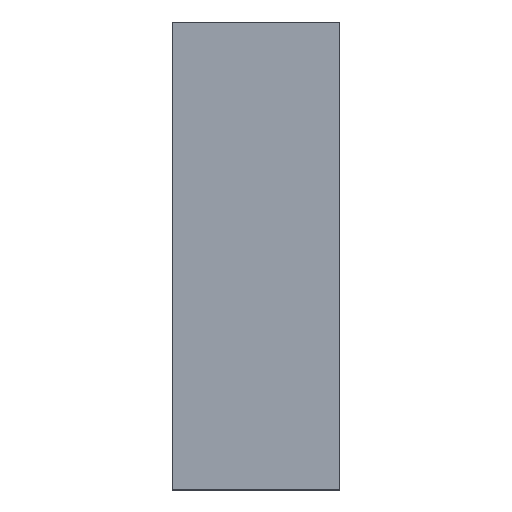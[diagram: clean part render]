
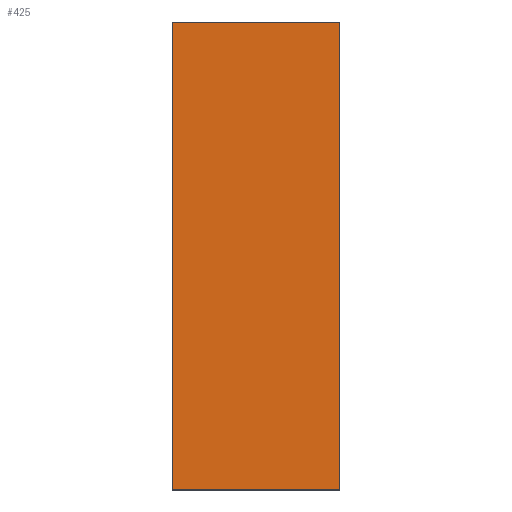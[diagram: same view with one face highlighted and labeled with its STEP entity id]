
A CAD part, top view. The second image highlights one B-rep face of the part: STEP entity #425.
In plain terms, the highlighted planar face has unit normal (0, 0, 1).
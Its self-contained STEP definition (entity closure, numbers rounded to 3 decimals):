
#24 = VERTEX_POINT('',#25);
#25 = CARTESIAN_POINT('',(13.5,-44.5,0.1));
#32 = PLANE('',#33);
#33 = AXIS2_PLACEMENT_3D('',#34,#35,#36);
#34 = CARTESIAN_POINT('',(13.5,-44.5,-2.1));
#35 = DIRECTION('',(1.,0.,-0.));
#36 = DIRECTION('',(0.,0.,1.));
#44 = PLANE('',#45);
#45 = AXIS2_PLACEMENT_3D('',#46,#47,#48);
#46 = CARTESIAN_POINT('',(13.5,-44.5,-2.1));
#47 = DIRECTION('',(-0.,1.,0.));
#48 = DIRECTION('',(0.,0.,1.));
#85 = VERTEX_POINT('',#86);
#86 = CARTESIAN_POINT('',(13.5,-23.5,0.1));
#100 = PLANE('',#101);
#101 = AXIS2_PLACEMENT_3D('',#102,#103,#104);
#102 = CARTESIAN_POINT('',(13.5,-23.5,-2.1));
#103 = DIRECTION('',(-0.,1.,0.));
#104 = DIRECTION('',(0.,0.,1.));
#112 = EDGE_CURVE('',#24,#85,#113,.T.);
#113 = SURFACE_CURVE('',#114,(#118,#125),.PCURVE_S1.);
#114 = LINE('',#115,#116);
#115 = CARTESIAN_POINT('',(13.5,-44.5,0.1));
#116 = VECTOR('',#117,1.);
#117 = DIRECTION('',(-0.,1.,0.));
#118 = PCURVE('',#32,#119);
#119 = DEFINITIONAL_REPRESENTATION('',(#120),#124);
#120 = LINE('',#121,#122);
#121 = CARTESIAN_POINT('',(2.2,0.));
#122 = VECTOR('',#123,1.);
#123 = DIRECTION('',(0.,-1.));
#124 = ( GEOMETRIC_REPRESENTATION_CONTEXT(2) 
PARAMETRIC_REPRESENTATION_CONTEXT() REPRESENTATION_CONTEXT('2D SPACE',''
  ) );
#125 = PCURVE('',#126,#131);
#126 = PLANE('',#127);
#127 = AXIS2_PLACEMENT_3D('',#128,#129,#130);
#128 = CARTESIAN_POINT('',(13.5,-44.5,0.1));
#129 = DIRECTION('',(0.,0.,1.));
#130 = DIRECTION('',(1.,0.,-0.));
#131 = DEFINITIONAL_REPRESENTATION('',(#132),#136);
#132 = LINE('',#133,#134);
#133 = CARTESIAN_POINT('',(0.,0.));
#134 = VECTOR('',#135,1.);
#135 = DIRECTION('',(0.,1.));
#136 = ( GEOMETRIC_REPRESENTATION_CONTEXT(2) 
PARAMETRIC_REPRESENTATION_CONTEXT() REPRESENTATION_CONTEXT('2D SPACE',''
  ) );
#165 = EDGE_CURVE('',#24,#166,#168,.T.);
#166 = VERTEX_POINT('',#167);
#167 = CARTESIAN_POINT('',(21.,-44.5,0.1));
#168 = SURFACE_CURVE('',#169,(#173,#180),.PCURVE_S1.);
#169 = LINE('',#170,#171);
#170 = CARTESIAN_POINT('',(13.5,-44.5,0.1));
#171 = VECTOR('',#172,1.);
#172 = DIRECTION('',(1.,0.,-0.));
#173 = PCURVE('',#44,#174);
#174 = DEFINITIONAL_REPRESENTATION('',(#175),#179);
#175 = LINE('',#176,#177);
#176 = CARTESIAN_POINT('',(2.2,0.));
#177 = VECTOR('',#178,1.);
#178 = DIRECTION('',(0.,1.));
#179 = ( GEOMETRIC_REPRESENTATION_CONTEXT(2) 
PARAMETRIC_REPRESENTATION_CONTEXT() REPRESENTATION_CONTEXT('2D SPACE',''
  ) );
#180 = PCURVE('',#126,#181);
#181 = DEFINITIONAL_REPRESENTATION('',(#182),#186);
#182 = LINE('',#183,#184);
#183 = CARTESIAN_POINT('',(0.,0.));
#184 = VECTOR('',#185,1.);
#185 = DIRECTION('',(1.,0.));
#186 = ( GEOMETRIC_REPRESENTATION_CONTEXT(2) 
PARAMETRIC_REPRESENTATION_CONTEXT() REPRESENTATION_CONTEXT('2D SPACE',''
  ) );
#202 = PLANE('',#203);
#203 = AXIS2_PLACEMENT_3D('',#204,#205,#206);
#204 = CARTESIAN_POINT('',(21.,-44.5,-2.1));
#205 = DIRECTION('',(1.,0.,-0.));
#206 = DIRECTION('',(0.,0.,1.));
#382 = EDGE_CURVE('',#85,#383,#385,.T.);
#383 = VERTEX_POINT('',#384);
#384 = CARTESIAN_POINT('',(21.,-23.5,0.1));
#385 = SURFACE_CURVE('',#386,(#390,#397),.PCURVE_S1.);
#386 = LINE('',#387,#388);
#387 = CARTESIAN_POINT('',(13.5,-23.5,0.1));
#388 = VECTOR('',#389,1.);
#389 = DIRECTION('',(1.,0.,-0.));
#390 = PCURVE('',#100,#391);
#391 = DEFINITIONAL_REPRESENTATION('',(#392),#396);
#392 = LINE('',#393,#394);
#393 = CARTESIAN_POINT('',(2.2,0.));
#394 = VECTOR('',#395,1.);
#395 = DIRECTION('',(0.,1.));
#396 = ( GEOMETRIC_REPRESENTATION_CONTEXT(2) 
PARAMETRIC_REPRESENTATION_CONTEXT() REPRESENTATION_CONTEXT('2D SPACE',''
  ) );
#397 = PCURVE('',#126,#398);
#398 = DEFINITIONAL_REPRESENTATION('',(#399),#403);
#399 = LINE('',#400,#401);
#400 = CARTESIAN_POINT('',(0.,21.));
#401 = VECTOR('',#402,1.);
#402 = DIRECTION('',(1.,0.));
#403 = ( GEOMETRIC_REPRESENTATION_CONTEXT(2) 
PARAMETRIC_REPRESENTATION_CONTEXT() REPRESENTATION_CONTEXT('2D SPACE',''
  ) );
#425 = ADVANCED_FACE('',(#426),#126,.T.);
#426 = FACE_BOUND('',#427,.T.);
#427 = EDGE_LOOP('',(#428,#429,#430,#451));
#428 = ORIENTED_EDGE('',*,*,#112,.F.);
#429 = ORIENTED_EDGE('',*,*,#165,.T.);
#430 = ORIENTED_EDGE('',*,*,#431,.T.);
#431 = EDGE_CURVE('',#166,#383,#432,.T.);
#432 = SURFACE_CURVE('',#433,(#437,#444),.PCURVE_S1.);
#433 = LINE('',#434,#435);
#434 = CARTESIAN_POINT('',(21.,-44.5,0.1));
#435 = VECTOR('',#436,1.);
#436 = DIRECTION('',(-0.,1.,0.));
#437 = PCURVE('',#126,#438);
#438 = DEFINITIONAL_REPRESENTATION('',(#439),#443);
#439 = LINE('',#440,#441);
#440 = CARTESIAN_POINT('',(7.5,0.));
#441 = VECTOR('',#442,1.);
#442 = DIRECTION('',(0.,1.));
#443 = ( GEOMETRIC_REPRESENTATION_CONTEXT(2) 
PARAMETRIC_REPRESENTATION_CONTEXT() REPRESENTATION_CONTEXT('2D SPACE',''
  ) );
#444 = PCURVE('',#202,#445);
#445 = DEFINITIONAL_REPRESENTATION('',(#446),#450);
#446 = LINE('',#447,#448);
#447 = CARTESIAN_POINT('',(2.2,0.));
#448 = VECTOR('',#449,1.);
#449 = DIRECTION('',(0.,-1.));
#450 = ( GEOMETRIC_REPRESENTATION_CONTEXT(2) 
PARAMETRIC_REPRESENTATION_CONTEXT() REPRESENTATION_CONTEXT('2D SPACE',''
  ) );
#451 = ORIENTED_EDGE('',*,*,#382,.F.);
